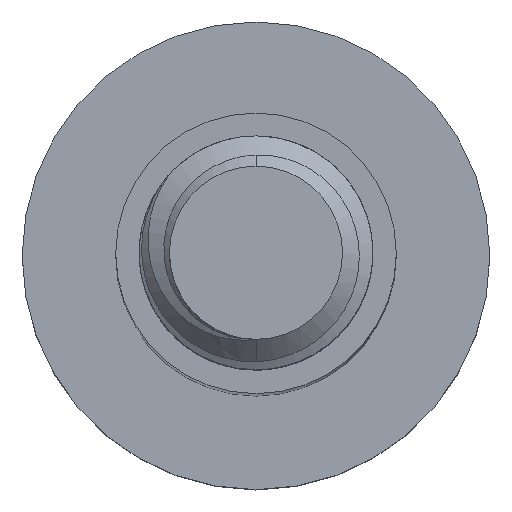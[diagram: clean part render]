
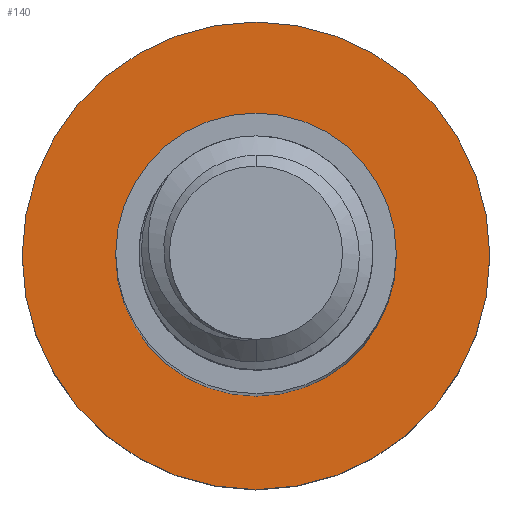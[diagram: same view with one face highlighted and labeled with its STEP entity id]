
A CAD part, top view. The second image highlights one B-rep face of the part: STEP entity #140.
In plain terms, the highlighted planar face has unit normal (0, 0, 1).
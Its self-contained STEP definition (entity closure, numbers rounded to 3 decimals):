
#121 = EDGE_CURVE ( 'NONE', #552, #169, #2695, .T. ) ;
#140 = ADVANCED_FACE ( 'NONE', ( #784, #3542 ), #1072, .F. ) ;
#169 = VERTEX_POINT ( 'NONE', #3508 ) ;
#224 = EDGE_LOOP ( 'NONE', ( #1994, #702 ) ) ;
#360 = CARTESIAN_POINT ( 'NONE',  ( 6., 0., -60. ) ) ;
#550 = AXIS2_PLACEMENT_3D ( 'NONE', #2469, #1364, #3013 ) ;
#552 = VERTEX_POINT ( 'NONE', #360 ) ;
#604 = EDGE_CURVE ( 'NONE', #169, #552, #2574, .T. ) ;
#702 = ORIENTED_EDGE ( 'NONE', *, *, #3445, .F. ) ;
#784 = FACE_BOUND ( 'NONE', #1820, .T. ) ;
#802 = DIRECTION ( 'NONE',  ( -1., 0., 0. ) ) ;
#810 = VERTEX_POINT ( 'NONE', #1790 ) ;
#948 = ORIENTED_EDGE ( 'NONE', *, *, #121, .T. ) ;
#1072 = PLANE ( 'NONE',  #1655 ) ;
#1169 = CARTESIAN_POINT ( 'NONE',  ( 0., 0., -60. ) ) ;
#1303 = DIRECTION ( 'NONE',  ( 0., 0., -1. ) ) ;
#1364 = DIRECTION ( 'NONE',  ( 0., 0., -1. ) ) ;
#1455 = DIRECTION ( 'NONE',  ( -1., 0., 0. ) ) ;
#1475 = EDGE_CURVE ( 'NONE', #810, #1565, #2735, .T. ) ;
#1565 = VERTEX_POINT ( 'NONE', #3485 ) ;
#1604 = CARTESIAN_POINT ( 'NONE',  ( 0., 0., -60. ) ) ;
#1655 = AXIS2_PLACEMENT_3D ( 'NONE', #1867, #1303, #802 ) ;
#1695 = AXIS2_PLACEMENT_3D ( 'NONE', #3438, #3402, #2014 ) ;
#1712 = AXIS2_PLACEMENT_3D ( 'NONE', #1604, #2396, #2139 ) ;
#1790 = CARTESIAN_POINT ( 'NONE',  ( 10., 0., -60. ) ) ;
#1820 = EDGE_LOOP ( 'NONE', ( #3419, #948 ) ) ;
#1867 = CARTESIAN_POINT ( 'NONE',  ( 0., 0., -60. ) ) ;
#1994 = ORIENTED_EDGE ( 'NONE', *, *, #1475, .F. ) ;
#2014 = DIRECTION ( 'NONE',  ( -1., 0., 0. ) ) ;
#2139 = DIRECTION ( 'NONE',  ( -1., 0., 0. ) ) ;
#2262 = DIRECTION ( 'NONE',  ( 0., 0., -1. ) ) ;
#2396 = DIRECTION ( 'NONE',  ( 0., 0., -1. ) ) ;
#2410 = AXIS2_PLACEMENT_3D ( 'NONE', #1169, #2262, #1455 ) ;
#2469 = CARTESIAN_POINT ( 'NONE',  ( 0., 0., -60. ) ) ;
#2574 = CIRCLE ( 'NONE', #2410, 6. ) ;
#2622 = CIRCLE ( 'NONE', #1695, 10. ) ;
#2695 = CIRCLE ( 'NONE', #1712, 6. ) ;
#2735 = CIRCLE ( 'NONE', #550, 10. ) ;
#3013 = DIRECTION ( 'NONE',  ( -1., 0., 0. ) ) ;
#3402 = DIRECTION ( 'NONE',  ( 0., 0., -1. ) ) ;
#3419 = ORIENTED_EDGE ( 'NONE', *, *, #604, .T. ) ;
#3438 = CARTESIAN_POINT ( 'NONE',  ( 0., 0., -60. ) ) ;
#3445 = EDGE_CURVE ( 'NONE', #1565, #810, #2622, .T. ) ;
#3485 = CARTESIAN_POINT ( 'NONE',  ( -10., 0., -60. ) ) ;
#3508 = CARTESIAN_POINT ( 'NONE',  ( -6., 0., -60. ) ) ;
#3542 = FACE_OUTER_BOUND ( 'NONE', #224, .T. ) ;
